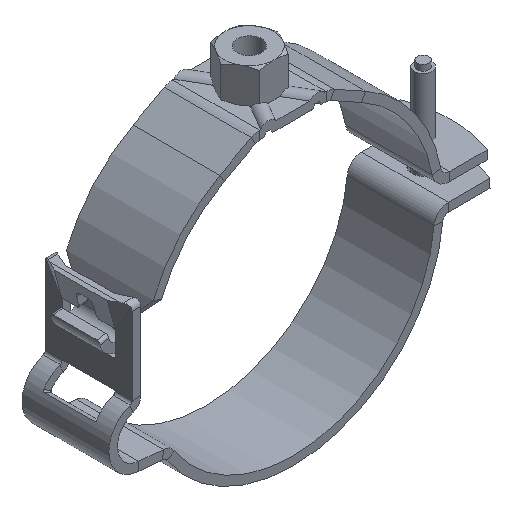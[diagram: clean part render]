
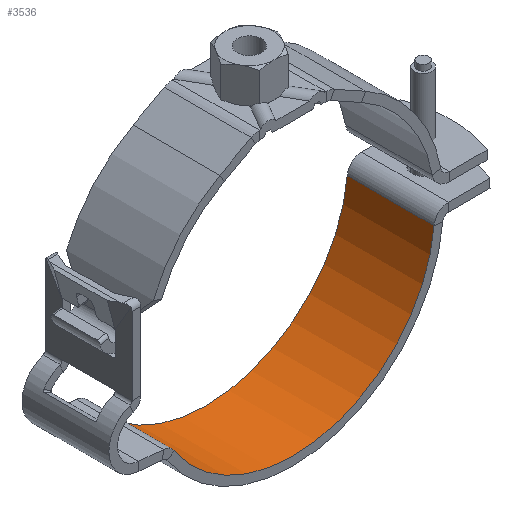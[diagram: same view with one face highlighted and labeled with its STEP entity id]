
A CAD part, isometric view. The second image highlights one B-rep face of the part: STEP entity #3536.
In plain terms, the highlighted cylindrical face has radius 49 mm (diameter 98 mm), a partial arc.
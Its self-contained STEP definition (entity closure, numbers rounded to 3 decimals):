
#166=CIRCLE('',#3854,49.);
#167=CIRCLE('',#3855,49.);
#267=CYLINDRICAL_SURFACE('',#3853,49.);
#380=FACE_OUTER_BOUND('',#598,.T.);
#598=EDGE_LOOP('',(#2506,#2507,#2508,#2509));
#875=LINE('',#5640,#1198);
#879=LINE('',#5652,#1202);
#1198=VECTOR('',#4388,30.);
#1202=VECTOR('',#4400,30.);
#1525=VERTEX_POINT('',#5638);
#1526=VERTEX_POINT('',#5639);
#1529=VERTEX_POINT('',#5650);
#1530=VERTEX_POINT('',#5651);
#1894=EDGE_CURVE('',#1525,#1526,#875,.T.);
#1900=EDGE_CURVE('',#1529,#1530,#879,.T.);
#1901=EDGE_CURVE('',#1526,#1530,#166,.T.);
#1902=EDGE_CURVE('',#1525,#1529,#167,.T.);
#2506=ORIENTED_EDGE('',*,*,#1900,.T.);
#2507=ORIENTED_EDGE('',*,*,#1901,.F.);
#2508=ORIENTED_EDGE('',*,*,#1894,.F.);
#2509=ORIENTED_EDGE('',*,*,#1902,.T.);
#3536=ADVANCED_FACE('',(#380),#267,.F.);
#3853=AXIS2_PLACEMENT_3D('',#5649,#4398,#4399);
#3854=AXIS2_PLACEMENT_3D('',#5653,#4401,#4402);
#3855=AXIS2_PLACEMENT_3D('',#5654,#4403,#4404);
#4388=DIRECTION('',(-1.,0.,0.));
#4398=DIRECTION('center_axis',(1.,0.,0.));
#4399=DIRECTION('ref_axis',(0.,1.,0.));
#4400=DIRECTION('',(-1.,0.,0.));
#4401=DIRECTION('center_axis',(1.,0.,0.));
#4402=DIRECTION('ref_axis',(0.,-0.835,-0.55));
#4403=DIRECTION('center_axis',(1.,0.,0.));
#4404=DIRECTION('ref_axis',(0.,-0.835,-0.55));
#5638=CARTESIAN_POINT('',(30.,-40.925,-26.947));
#5639=CARTESIAN_POINT('',(0.,-40.925,-26.947));
#5640=CARTESIAN_POINT('',(30.,-40.925,-26.947));
#5649=CARTESIAN_POINT('Origin',(15.511,0.,0.));
#5650=CARTESIAN_POINT('',(30.,48.789,-4.537));
#5651=CARTESIAN_POINT('',(0.,48.789,-4.537));
#5652=CARTESIAN_POINT('',(30.,48.789,-4.537));
#5653=CARTESIAN_POINT('Origin',(0.,0.,0.));
#5654=CARTESIAN_POINT('Origin',(30.,0.,0.));
